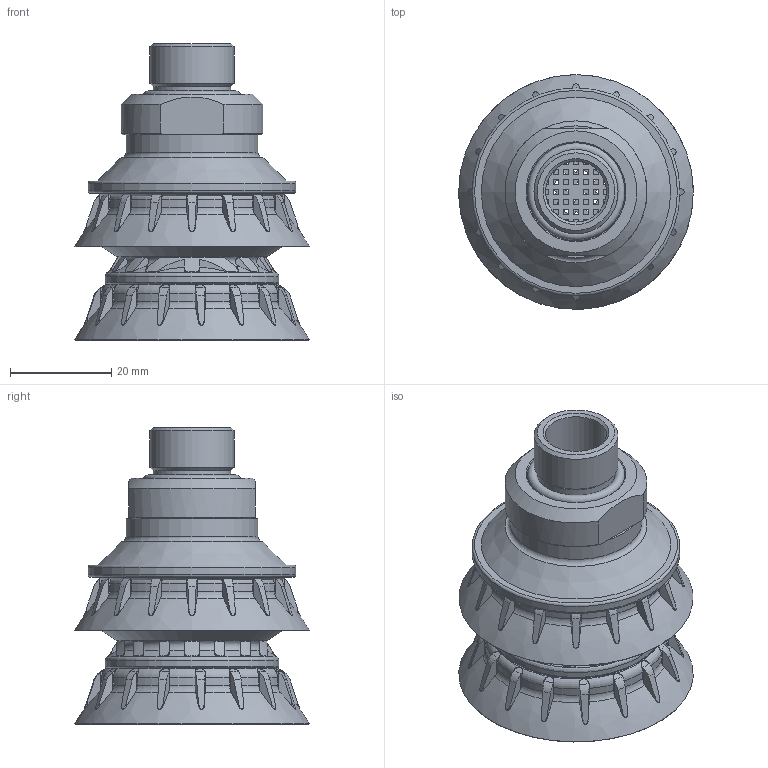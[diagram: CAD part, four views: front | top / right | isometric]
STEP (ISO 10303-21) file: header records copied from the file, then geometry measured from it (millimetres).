
FILE_DESCRIPTION( ( 'Unknown' ), '1' );
FILE_NAME( 'C:/Documents and Settings/owner/官帕 拳搁/叼膏怜/3D/2013.12.19 概流 Cup/荤夯 - B1.5/B2.5-40-X45-S-D-38M.stp', 'Unknown', ( 'Unknown' ), ( 'Unknown' ), 'XStep 1.0', 'Unknown', ' ' );
FILE_SCHEMA( ( 'automotive_design' ) );
Length unit declared in the file: millimetre
Products named in the file (6): Assem1; B2.5-40; B1.5-40-38M; 38M-Oring; B2.5-40-X45; B2.5-40-stopperB
Bounding box: 46.28 x 46.28 x 58.54 mm (x, y, z)
Volume: 35701.1 mm3; surface area: 44710.9 mm2
Topology: 10 solids, 10 shells, 1740 faces, 4992 edges, 3246 vertices
Faces by surface type: plane 894, cylinder 414, torus 256, cone 172, bspline 4
Full cylindrical faces by diameter (mm): 12 x2, 14 x2, 15.3 x2, 16.6 x2, 18 x4, 19 x2, 19.3 x2, 21 x4, 21.5 x4, 22 x2, 24 x2, 24.831 x2, 26 x2, 27.821 x2, 32 x2, 34.2 x2, 41 x4
Entity records: 33015 total; most frequent: CARTESIAN_POINT 8882, ORIENTED_EDGE 4818, DIRECTION 3960, EDGE_CURVE 2409, VERTEX_POINT 1615, AXIS2_PLACEMENT_3D 1411, LINE 1138, VECTOR 1138
